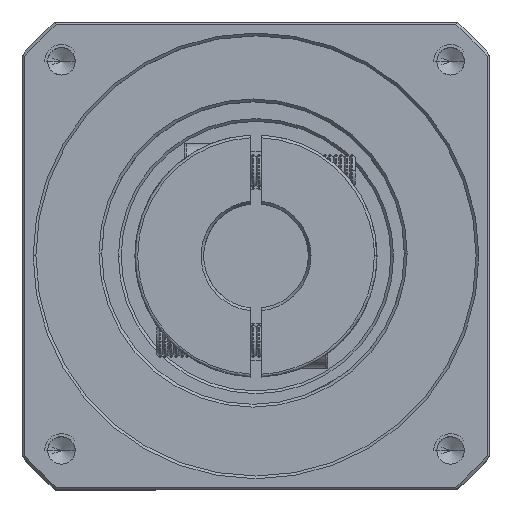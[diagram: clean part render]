
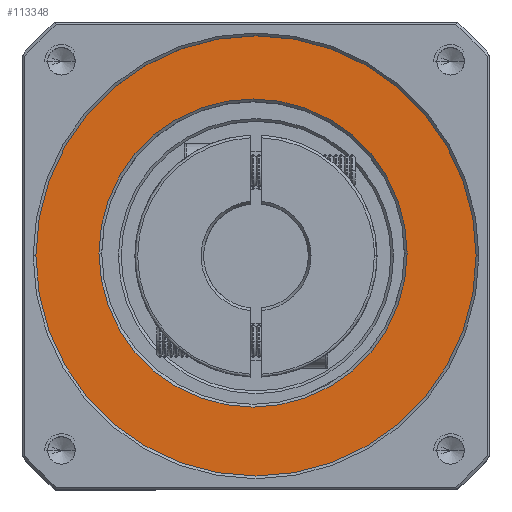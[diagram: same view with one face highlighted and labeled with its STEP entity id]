
A CAD part, top view. The second image highlights one B-rep face of the part: STEP entity #113348.
In plain terms, the highlighted planar face has unit normal (0, 0, 1).
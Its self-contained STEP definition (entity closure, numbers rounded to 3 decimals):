
#1920 = EDGE_CURVE ( 'NONE', #54357, #62497, #122371, .T. ) ;
#6735 = AXIS2_PLACEMENT_3D ( 'NONE', #8317, #77218, #18244 ) ;
#8317 = CARTESIAN_POINT ( 'NONE',  ( -37.609, 68.787, -61.843 ) ) ;
#15089 = CARTESIAN_POINT ( 'NONE',  ( -9.609, 68.787, -61.843 ) ) ;
#17987 = DIRECTION ( 'NONE',  ( 0., 0., 1. ) ) ;
#18244 = DIRECTION ( 'NONE',  ( 1., 0., 0. ) ) ;
#18524 = CARTESIAN_POINT ( 'NONE',  ( -37.067, 68.253, -61.843 ) ) ;
#19634 = CARTESIAN_POINT ( 'NONE',  ( -77.067, 68.253, -61.843 ) ) ;
#28416 = DIRECTION ( 'NONE',  ( 1., 0., 0. ) ) ;
#33220 = VERTEX_POINT ( 'NONE', #55248 ) ;
#34029 = FACE_BOUND ( 'NONE', #46158, .T. ) ;
#36051 = ORIENTED_EDGE ( 'NONE', *, *, #1920, .T. ) ;
#46158 = EDGE_LOOP ( 'NONE', ( #70946, #36051 ) ) ;
#47060 = AXIS2_PLACEMENT_3D ( 'NONE', #110887, #110479, #110054 ) ;
#48153 = CIRCLE ( 'NONE', #85413, 40. ) ;
#50516 = EDGE_CURVE ( 'NONE', #67282, #33220, #123352, .T. ) ;
#53164 = CARTESIAN_POINT ( 'NONE',  ( -37.067, 68.253, -61.843 ) ) ;
#54357 = VERTEX_POINT ( 'NONE', #105655 ) ;
#55248 = CARTESIAN_POINT ( 'NONE',  ( 2.933, 68.253, -61.843 ) ) ;
#62497 = VERTEX_POINT ( 'NONE', #15089 ) ;
#63080 = DIRECTION ( 'NONE',  ( 1., 0., 0. ) ) ;
#64424 = EDGE_CURVE ( 'NONE', #33220, #67282, #48153, .T. ) ;
#67282 = VERTEX_POINT ( 'NONE', #19634 ) ;
#68031 = EDGE_LOOP ( 'NONE', ( #120098, #121031 ) ) ;
#68837 = CIRCLE ( 'NONE', #6735, 28. ) ;
#70448 = AXIS2_PLACEMENT_3D ( 'NONE', #76953, #17987, #86716 ) ;
#70946 = ORIENTED_EDGE ( 'NONE', *, *, #71024, .T. ) ;
#71024 = EDGE_CURVE ( 'NONE', #62497, #54357, #68837, .T. ) ;
#76953 = CARTESIAN_POINT ( 'NONE',  ( -37.067, 68.253, -61.843 ) ) ;
#77218 = DIRECTION ( 'NONE',  ( 0., 0., -1. ) ) ;
#85413 = AXIS2_PLACEMENT_3D ( 'NONE', #18524, #87272, #28416 ) ;
#86368 = FACE_OUTER_BOUND ( 'NONE', #68031, .T. ) ;
#86716 = DIRECTION ( 'NONE',  ( 1., 0., 0. ) ) ;
#87272 = DIRECTION ( 'NONE',  ( 0., 0., 1. ) ) ;
#91859 = PLANE ( 'NONE',  #117844 ) ;
#105655 = CARTESIAN_POINT ( 'NONE',  ( -65.609, 68.787, -61.843 ) ) ;
#110054 = DIRECTION ( 'NONE',  ( 1., 0., 0. ) ) ;
#110479 = DIRECTION ( 'NONE',  ( 0., 0., -1. ) ) ;
#110887 = CARTESIAN_POINT ( 'NONE',  ( -37.609, 68.787, -61.843 ) ) ;
#113348 = ADVANCED_FACE ( 'NONE', ( #86368, #34029 ), #91859, .T. ) ;
#117844 = AXIS2_PLACEMENT_3D ( 'NONE', #53164, #121832, #63080 ) ;
#120098 = ORIENTED_EDGE ( 'NONE', *, *, #64424, .T. ) ;
#121031 = ORIENTED_EDGE ( 'NONE', *, *, #50516, .T. ) ;
#121832 = DIRECTION ( 'NONE',  ( 0., 0., 1. ) ) ;
#122371 = CIRCLE ( 'NONE', #47060, 28. ) ;
#123352 = CIRCLE ( 'NONE', #70448, 40. ) ;
